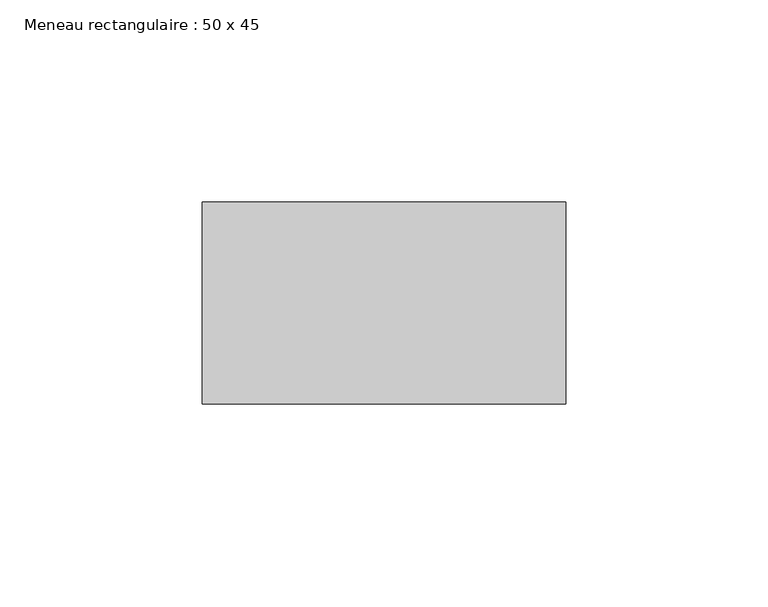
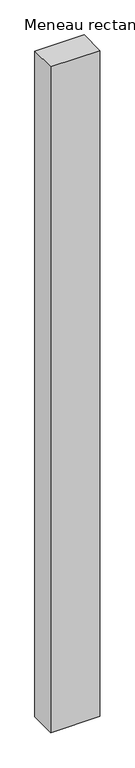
"""IFC4 building model written with IfcOpenShell, lengths in millimetres: member geometry, Meneau rectangulaire : 50 x 45."""

from ifc_helpers import new_model, si_unit, frame, origin, place, context, project, spatial, polyline, outline, extrude, source, transform, mapped, element, save


def meneau_rectangulaire_50_x_45_9169bbb8(model_context):
    return source(origin(), model_context, "Body", "SweptSolid", [
        extrude(outline(polyline([(0.0, 0.0), (0.0, -50.0), (-90.0, -50.0), (-90.0, 0.0), (0.0, 0.0)])), frame((0.0, 0.0, -1286.9652306), z_axis=(0.0, 0.0, 1.0), x_axis=(1.0, 0.0, 0.0)), (0.0, 0.0, 1.0), 1286.9652306),
    ])


if __name__ == "__main__":
    model = new_model("IFC4")
    model_context = context("Model", 3, world=origin())
    ifc_project = project(units=[si_unit("LENGTHUNIT", "METRE", prefix="MILLI")], contexts=[model_context])
    site = spatial("IfcSite", under=ifc_project)
    building = spatial("IfcBuilding", under=site)
    placement = place(None, origin())
    meneau_rectangulaire_50_x_45_shape = meneau_rectangulaire_50_x_45_9169bbb8(model_context)
    element("IfcMember", 1, ObjectType="Meneau rectangulaire : 50 x 45", at=placement, inside=building, context=model_context, shape_type="MappedRepresentation", body=[
        mapped(meneau_rectangulaire_50_x_45_shape, transform((0.0, 0.0, 0.0), x_axis=(1.0, 0.0, 0.0), y_axis=(0.0, 1.0, 0.0), z_axis=(0.0, 0.0, 1.0))),
    ])
    save(model, "model.ifc")
